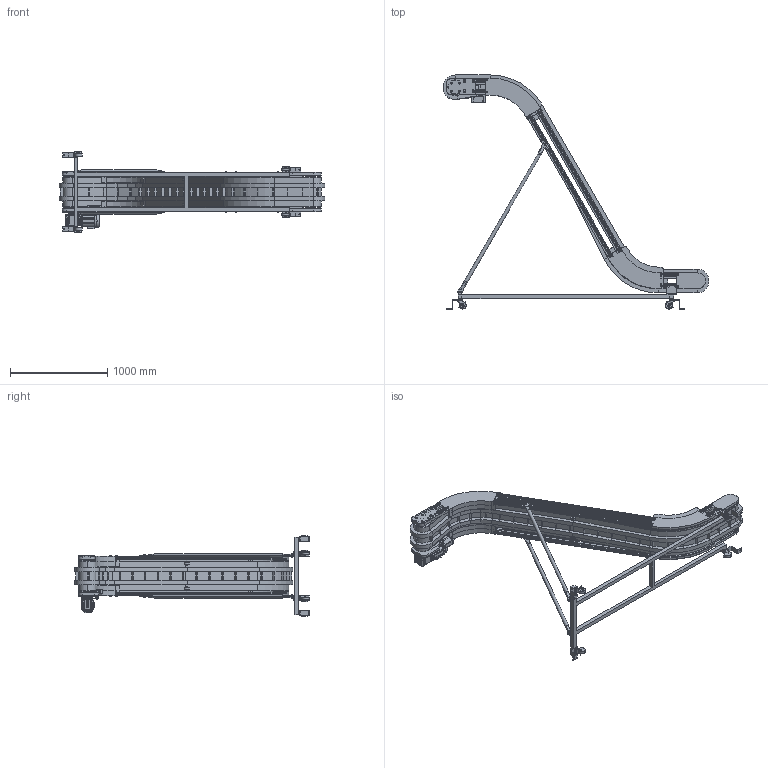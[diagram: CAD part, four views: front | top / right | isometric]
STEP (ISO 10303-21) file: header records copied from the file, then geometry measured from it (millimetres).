
FILE_DESCRIPTION( (''), '2;1');
FILE_NAME ('SMMX3-A-340-300-200-60°-K-80.stp','2025-02-17T14:58:22',(''),(''),'spGate 20.6.2 (****-****-****-****)','','');
FILE_SCHEMA (('AUTOMOTIVE_DESIGN'));
Length unit declared in the file: millimetre
Products named in the file (45): NewModel; TEMP_X_T-prt0; TEMP_X_T-prt1; TEMP_X_T-prt2; TEMP_X_T-prt3; TEMP_X_T-prt4; TEMP_X_T-prt5; TEMP_X_T-prt6; TEMP_X_T-prt7; TEMP_X_T-prt8; TEMP_X_T-prt9; TEMP_X_T-prt10; TEMP_X_T-prt11; TEMP_X_T-prt12; TEMP_X_T-prt13; TEMP_X_T-prt14; TEMP_X_T-prt15; TEMP_X_T-prt16; TEMP_X_T-prt17; TEMP_X_T-prt18; TEMP_X_T-prt19; TEMP_X_T-prt20; TEMP_X_T-prt21; TEMP_X_T-prt22; TEMP_X_T-prt23; TEMP_X_T-prt24; TEMP_X_T-prt25; TEMP_X_T-prt26; TEMP_X_T-prt27; TEMP_X_T-prt28; TEMP_X_T-prt29; TEMP_X_T-prt30; TEMP_X_T-prt31; TEMP_X_T-prt32; TEMP_X_T-prt33; TEMP_X_T-prt34; TEMP_X_T-prt35; TEMP_X_T-prt36; TEMP_X_T-prt37; TEMP_X_T-prt38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
Assembly tree (44 placements, depth 2):
  NewModel
    TEMP_X_T-prt0
    TEMP_X_T-prt1
    TEMP_X_T-prt2
    TEMP_X_T-prt3
    TEMP_X_T-prt4
    TEMP_X_T-prt5
    TEMP_X_T-prt6
    TEMP_X_T-prt7
    TEMP_X_T-prt8
    TEMP_X_T-prt9
    TEMP_X_T-prt10
    TEMP_X_T-prt11
    TEMP_X_T-prt12
    TEMP_X_T-prt13
    TEMP_X_T-prt14
    TEMP_X_T-prt15
    TEMP_X_T-prt16
    TEMP_X_T-prt17
    TEMP_X_T-prt18
    TEMP_X_T-prt19
    TEMP_X_T-prt20
    TEMP_X_T-prt21
    TEMP_X_T-prt22
    TEMP_X_T-prt23
    TEMP_X_T-prt24
    TEMP_X_T-prt25
    TEMP_X_T-prt26
    TEMP_X_T-prt27
    TEMP_X_T-prt28
    TEMP_X_T-prt29
    TEMP_X_T-prt30
    TEMP_X_T-prt31
    TEMP_X_T-prt32
    TEMP_X_T-prt33
    TEMP_X_T-prt34
    TEMP_X_T-prt35
    TEMP_X_T-prt36
    TEMP_X_T-prt37
    TEMP_X_T-prt38
    TEMP_X_T-prt39
    TEMP_X_T-prt40
    TEMP_X_T-prt41
    TEMP_X_T-prt42
    TEMP_X_T-prt43
Bounding box: 2739.43 x 2411.76 x 830 mm (x, y, z)
Volume: 97283556.2 mm3; surface area: 14860391.9 mm2
Topology: 44 solids, 44 shells, 2790 faces, 7015 edges, 4538 vertices
Faces by surface type: plane 2247, cylinder 489, bspline 54
Entity records: 141304 total; most frequent: CARTESIAN_POINT 16089, ORIENTED_EDGE 14030, DIRECTION 13439, COLOUR_RGB 9849, PRESENTATION_STYLE_ASSIGNMENT 9849, STYLED_ITEM 9849, EDGE_CURVE 7015, DRAUGHTING_PRE_DEFINED_CURVE_FONT 7015
